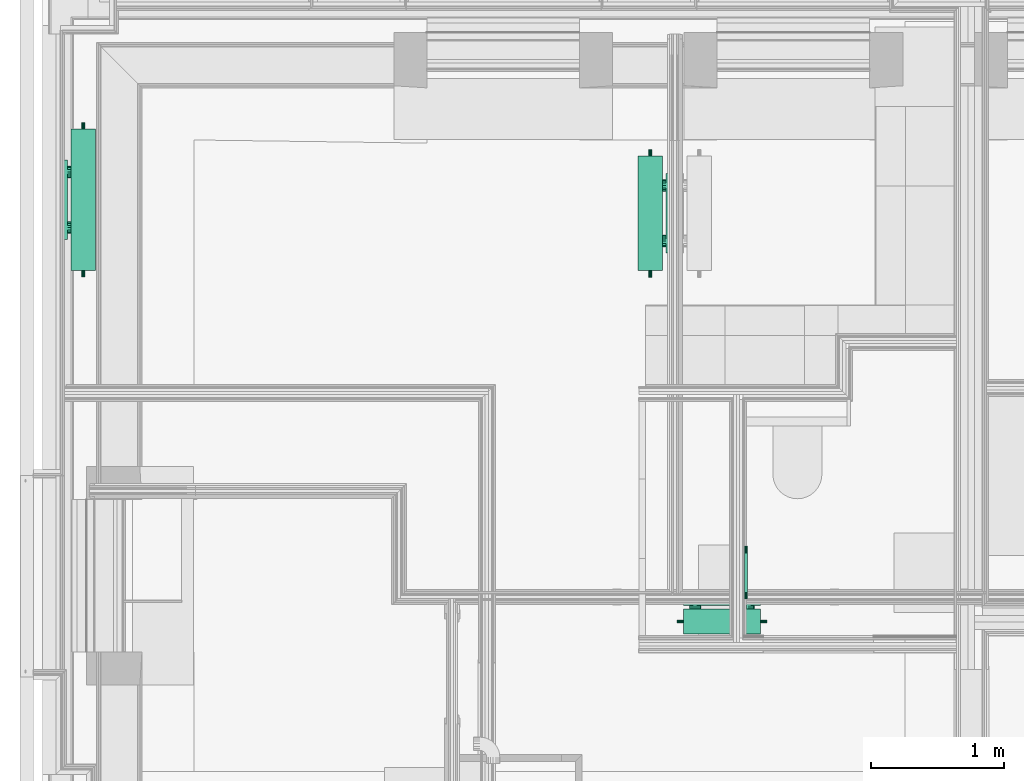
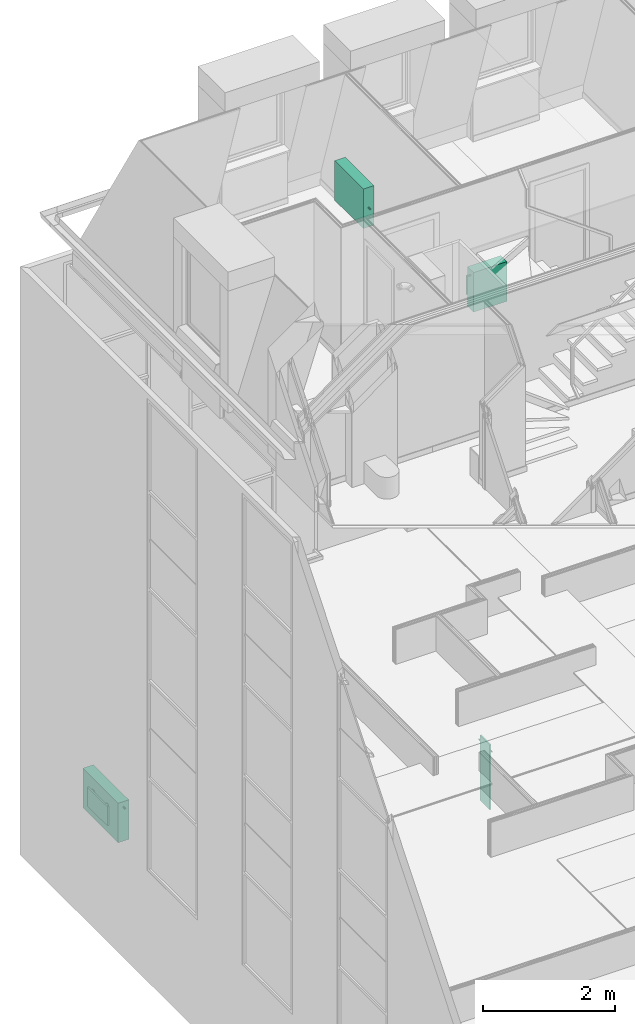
# One storey, part 147 of 169: 4 flow terminals.
"""IFC2X3 building model written with IfcOpenShell, lengths in metres."""

from ifc_helpers import new_model, entity, si_unit, converted_unit, derived_unit, money_unit, direction, frame, origin_with_axes, place, context, subcontext, project, spatial, open_shell, surface_model, material, type_object, element, save


model = new_model("IFC2X3")

# Units and contexts
model_context = context("Model", 3, precision=1e-05, world=origin_with_axes(), true_north=direction((0.0, 1.0)))
body_context = subcontext(model_context, "Body", "Model", "MODEL_VIEW", scale=1.0)
ifc_project = project(units=[si_unit("LENGTHUNIT", "METRE"), si_unit("AREAUNIT", "SQUARE_METRE"), si_unit("VOLUMEUNIT", "CUBIC_METRE"), si_unit("ABSORBEDDOSEUNIT", "GRAY"), si_unit("AMOUNTOFSUBSTANCEUNIT", "MOLE"), si_unit("DOSEEQUIVALENTUNIT", "SIEVERT"), si_unit("ELECTRICCAPACITANCEUNIT", "FARAD"), si_unit("ELECTRICCHARGEUNIT", "COULOMB"), si_unit("ELECTRICCONDUCTANCEUNIT", "SIEMENS"), si_unit("ELECTRICCURRENTUNIT", "AMPERE"), si_unit("ELECTRICRESISTANCEUNIT", "OHM"), si_unit("ELECTRICVOLTAGEUNIT", "VOLT"), si_unit("ENERGYUNIT", "JOULE"), si_unit("FORCEUNIT", "NEWTON"), si_unit("FREQUENCYUNIT", "HERTZ"), si_unit("ILLUMINANCEUNIT", "LUX"), si_unit("INDUCTANCEUNIT", "HENRY"), si_unit("LUMINOUSFLUXUNIT", "LUMEN"), si_unit("LUMINOUSINTENSITYUNIT", "CANDELA"), si_unit("MAGNETICFLUXDENSITYUNIT", "TESLA"), si_unit("MAGNETICFLUXUNIT", "WEBER"), si_unit("MASSUNIT", "GRAM"), converted_unit("PLANEANGLEUNIT", "degree", entity("IfcReal", 0.0174532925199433), si_unit("PLANEANGLEUNIT", "RADIAN"), dimensions=[0, 0, 0, 0, 0, 0, 0]), si_unit("POWERUNIT", "WATT"), si_unit("PRESSUREUNIT", "PASCAL"), si_unit("RADIOACTIVITYUNIT", "BECQUEREL"), si_unit("SOLIDANGLEUNIT", "STERADIAN"), si_unit("THERMODYNAMICTEMPERATUREUNIT", "KELVIN"), si_unit("TIMEUNIT", "SECOND"), derived_unit("ACCELERATIONUNIT", [(si_unit("LENGTHUNIT", "METRE"), 1), (si_unit("TIMEUNIT", "SECOND"), -2)]), derived_unit("ANGULARVELOCITYUNIT", [(converted_unit("PLANEANGLEUNIT", "degree", entity("IfcReal", 0.0174532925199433), si_unit("PLANEANGLEUNIT", "RADIAN"), dimensions=[0, 0, 0, 0, 0, 0, 0]), 1), (si_unit("TIMEUNIT", "SECOND"), -1)]), derived_unit("CURVATUREUNIT", [(converted_unit("PLANEANGLEUNIT", "degree", entity("IfcReal", 0.0174532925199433), si_unit("PLANEANGLEUNIT", "RADIAN"), dimensions=[0, 0, 0, 0, 0, 0, 0]), 1), (si_unit("LENGTHUNIT", "METRE"), -1)]), derived_unit("DYNAMICVISCOSITYUNIT", [(si_unit("PRESSUREUNIT", "PASCAL"), 1), (si_unit("TIMEUNIT", "SECOND"), 1)]), derived_unit("HEATFLUXDENSITYUNIT", [(si_unit("POWERUNIT", "WATT"), 1), (si_unit("LENGTHUNIT", "METRE"), -2)]), derived_unit("HEATINGVALUEUNIT", [(si_unit("ENERGYUNIT", "JOULE"), 1), (si_unit("MASSUNIT", "GRAM"), -1)]), derived_unit("INTEGERCOUNTRATEUNIT", [(si_unit("TIMEUNIT", "SECOND"), -1)]), derived_unit("IONCONCENTRATIONUNIT", [(si_unit("MASSUNIT", "GRAM"), 1), (si_unit("VOLUMEUNIT", "CUBIC_METRE"), -1)]), derived_unit("ISOTHERMALMOISTURECAPACITYUNIT", [(si_unit("VOLUMEUNIT", "CUBIC_METRE"), 1), (si_unit("MASSUNIT", "GRAM"), -1)]), derived_unit("KINEMATICVISCOSITYUNIT", [(si_unit("AREAUNIT", "SQUARE_METRE"), 1), (si_unit("TIMEUNIT", "SECOND"), -1)]), derived_unit("LINEARFORCEUNIT", [(si_unit("FORCEUNIT", "NEWTON"), 1), (si_unit("LENGTHUNIT", "METRE"), -1)]), derived_unit("LINEARMOMENTUNIT", [(si_unit("FORCEUNIT", "NEWTON"), 1), (si_unit("LENGTHUNIT", "METRE"), -1)]), derived_unit("LINEARSTIFFNESSUNIT", [(si_unit("FORCEUNIT", "NEWTON"), 1), (si_unit("LENGTHUNIT", "METRE"), -1)]), derived_unit("LINEARVELOCITYUNIT", [(si_unit("LENGTHUNIT", "METRE"), 1), (si_unit("TIMEUNIT", "SECOND"), -1)]), derived_unit("LUMINOUSINTENSITYDISTRIBUTIONUNIT", [(si_unit("LUMINOUSINTENSITYUNIT", "CANDELA"), 1), (si_unit("LUMINOUSFLUXUNIT", "LUMEN"), -1)]), derived_unit("MASSDENSITYUNIT", [(si_unit("MASSUNIT", "GRAM"), 1), (si_unit("VOLUMEUNIT", "CUBIC_METRE"), -1)]), derived_unit("MASSFLOWRATEUNIT", [(si_unit("MASSUNIT", "GRAM"), 1), (si_unit("TIMEUNIT", "SECOND"), -1)]), derived_unit("MASSPERLENGTHUNIT", [(si_unit("MASSUNIT", "GRAM"), 1), (si_unit("LENGTHUNIT", "METRE"), -1)]), derived_unit("MODULUSOFELASTICITYUNIT", [(si_unit("FORCEUNIT", "NEWTON"), 1), (si_unit("AREAUNIT", "SQUARE_METRE"), -1)]), derived_unit("MODULUSOFLINEARSUBGRADEREACTIONUNIT", [(si_unit("FORCEUNIT", "NEWTON"), 1), (si_unit("LENGTHUNIT", "METRE"), -2)]), derived_unit("MODULUSOFROTATIONALSUBGRADEREACTIONUNIT", [(si_unit("FORCEUNIT", "NEWTON"), 1), (si_unit("LENGTHUNIT", "METRE"), 1)]), derived_unit("MODULUSOFSUBGRADEREACTIONUNIT", [(si_unit("FORCEUNIT", "NEWTON"), 1), (si_unit("VOLUMEUNIT", "CUBIC_METRE"), -1)]), derived_unit("MOISTUREDIFFUSIVITYUNIT", [(si_unit("VOLUMEUNIT", "CUBIC_METRE"), 1), (si_unit("TIMEUNIT", "SECOND"), -1)]), derived_unit("MOLECULARWEIGHTUNIT", [(si_unit("MASSUNIT", "GRAM"), 1), (si_unit("AMOUNTOFSUBSTANCEUNIT", "MOLE"), -1)]), derived_unit("PLANARFORCEUNIT", [(si_unit("FORCEUNIT", "NEWTON"), 1), (si_unit("LENGTHUNIT", "METRE"), -2)]), derived_unit("ROTATIONALFREQUENCYUNIT", [(si_unit("TIMEUNIT", "SECOND"), -1)]), derived_unit("ROTATIONALMASSUNIT", [(si_unit("MASSUNIT", "GRAM"), 1), (si_unit("LENGTHUNIT", "METRE"), 2)]), derived_unit("ROTATIONALSTIFFNESSUNIT", [(si_unit("FORCEUNIT", "NEWTON"), 1), (si_unit("LENGTHUNIT", "METRE"), 1), (converted_unit("PLANEANGLEUNIT", "degree", entity("IfcReal", 0.0174532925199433), si_unit("PLANEANGLEUNIT", "RADIAN"), dimensions=[0, 0, 0, 0, 0, 0, 0]), -1)]), derived_unit("SECTIONAREAINTEGRALUNIT", [(si_unit("LENGTHUNIT", "METRE"), 5)]), derived_unit("SECTIONMODULUSUNIT", [(si_unit("LENGTHUNIT", "METRE"), 3)]), derived_unit("SHEARMODULUSUNIT", [(si_unit("FORCEUNIT", "NEWTON"), 1), (si_unit("AREAUNIT", "SQUARE_METRE"), -1)]), derived_unit("SOUNDPOWERUNIT", [(si_unit("ENERGYUNIT", "JOULE"), 1), (si_unit("TIMEUNIT", "SECOND"), -1)]), derived_unit("SPECIFICHEATCAPACITYUNIT", [(si_unit("FORCEUNIT", "NEWTON"), 1), (si_unit("MASSUNIT", "GRAM"), -1), (si_unit("THERMODYNAMICTEMPERATUREUNIT", "KELVIN"), -1)]), derived_unit("TEMPERATUREGRADIENTUNIT", [(si_unit("THERMODYNAMICTEMPERATUREUNIT", "KELVIN"), 1), (si_unit("LENGTHUNIT", "METRE"), -1)]), derived_unit("THERMALADMITTANCEUNIT", [(si_unit("POWERUNIT", "WATT"), 1), (si_unit("AREAUNIT", "SQUARE_METRE"), -1), (si_unit("THERMODYNAMICTEMPERATUREUNIT", "KELVIN"), -1)]), derived_unit("THERMALCONDUCTANCEUNIT", [(si_unit("POWERUNIT", "WATT"), 1), (si_unit("LENGTHUNIT", "METRE"), -1), (si_unit("THERMODYNAMICTEMPERATUREUNIT", "KELVIN"), -1)]), derived_unit("THERMALEXPANSIONCOEFFICIENTUNIT", [(si_unit("THERMODYNAMICTEMPERATUREUNIT", "KELVIN"), -1)]), derived_unit("THERMALRESISTANCEUNIT", [(si_unit("AREAUNIT", "SQUARE_METRE"), 1), (si_unit("POWERUNIT", "WATT"), -1)]), derived_unit("THERMALTRANSMITTANCEUNIT", [(si_unit("POWERUNIT", "WATT"), 1), (si_unit("AREAUNIT", "SQUARE_METRE"), -1), (si_unit("THERMODYNAMICTEMPERATUREUNIT", "KELVIN"), -1)]), derived_unit("TORQUEUNIT", [(si_unit("FORCEUNIT", "NEWTON"), 1), (si_unit("LENGTHUNIT", "METRE"), 1)]), derived_unit("VAPORPERMEABILITYUNIT", [(si_unit("MASSUNIT", "GRAM"), 1), (si_unit("TIMEUNIT", "SECOND"), -1)]), derived_unit("VOLUMETRICFLOWRATEUNIT", [(si_unit("VOLUMEUNIT", "CUBIC_METRE"), 1), (si_unit("TIMEUNIT", "SECOND"), -1)]), derived_unit("WARPINGCONSTANTUNIT", [(si_unit("LENGTHUNIT", "METRE"), 6)]), derived_unit("WARPINGMOMENTUNIT", [(si_unit("FORCEUNIT", "NEWTON"), 1), (si_unit("LENGTHUNIT", "METRE"), 2)]), money_unit("GBP")], contexts=[model_context])

# Site, building, storey, space
site_placement = place(None, origin_with_axes())
site = spatial("IfcSite", under=ifc_project, at=site_placement, Name="Site", CompositionType="ELEMENT")
building_placement = place(site_placement, origin_with_axes())
building = spatial("IfcBuilding", under=site, at=building_placement, Name="Building01", CompositionType="ELEMENT")
storey_placement = place(building_placement, frame((0.0, 0.0, 5.15), z_axis=(0.0, 0.0, 1.0), x_axis=(1.0, 0.0, 0.0)))
storey = spatial("IfcBuildingStorey", under=building, at=storey_placement, Name="1F", CompositionType="ELEMENT", Elevation=5.15)
space_1_placement = place(storey_placement, frame((0.318, 11.72567, 0.017975), z_axis=(0.0, 0.0, 1.0), x_axis=(1.0, 0.0, 0.0)))
space_1 = spatial("IfcSpace", under=storey, at=space_1_placement, Name="k/d/l", CompositionType="ELEMENT", InteriorOrExteriorSpace="NOTDEFINED")

# Flow terminal
ifc_material = material(Name="M_BSUK_Ventilation")
space_heater_type_1 = type_object("IfcSpaceHeaterType", Name="M-BmvRadiatorpanel-Panel", PredefinedType="NOTDEFINED")
flow_terminal_1_placement = place(storey_placement, frame((0.47825, 13.670846, 0.665), z_axis=(0.0, 0.0, 1.0), x_axis=(0.0, 1.0, 0.0)))
element("IfcFlowTerminal", 1, at=flow_terminal_1_placement, inside=space_1, type_object=space_heater_type_1, material=ifc_material, Name="M-BmvRadiatorpanel-Panel", ObjectType="M-BmvRadiatorpanel-Panel", context=body_context, shape_type="SurfaceModel", body=[
    surface_model("IfcShellBasedSurfaceModel", [(-1.069, -0.0925, 0.365), (-1.069, 0.0925, 0.365), (0.0, 0.0925, 0.365), (0.0, -0.0925, 0.365), (-1.069, -0.0925, -0.365), (-1.069, 0.0925, -0.365), (0.0, -0.0925, -0.365), (0.0, 0.0925, -0.365), (-0.2345, 0.12025, 0.175), (-0.8345, 0.12025, 0.175), (-0.8345, 0.14525, 0.175), (-0.2345, 0.14525, 0.175), (-0.8345, 0.14525, -0.175), (-0.2345, 0.14525, -0.175), (-0.8345, 0.12025, -0.175), (-0.2345, 0.12025, -0.175), (-0.3245, 0.0925, 0.0775), (-0.3245, 0.12025, 0.0775), (-0.307279, 0.12025, 0.080925), (-0.307279, 0.0925, 0.080925), (-0.29268, 0.12025, 0.09068), (-0.29268, 0.0925, 0.09068), (-0.282925, 0.12025, 0.105279), (-0.282925, 0.0925, 0.105279), (-0.2795, 0.12025, 0.1225), (-0.2795, 0.0925, 0.1225), (-0.282925, 0.12025, 0.139721), (-0.282925, 0.0925, 0.139721), (-0.29268, 0.12025, 0.15432), (-0.29268, 0.0925, 0.15432), (-0.307279, 0.12025, 0.164075), (-0.307279, 0.0925, 0.164075), (-0.3245, 0.12025, 0.1675), (-0.3245, 0.0925, 0.1675), (-0.341721, 0.12025, 0.164075), (-0.341721, 0.0925, 0.164075), (-0.35632, 0.12025, 0.15432), (-0.35632, 0.0925, 0.15432), (-0.366075, 0.12025, 0.139721), (-0.366075, 0.0925, 0.139721), (-0.3695, 0.12025, 0.1225), (-0.3695, 0.0925, 0.1225), (-0.366075, 0.12025, 0.105279), (-0.366075, 0.0925, 0.105279), (-0.35632, 0.12025, 0.09068), (-0.35632, 0.0925, 0.09068), (-0.341721, 0.12025, 0.080925), (-0.341721, 0.0925, 0.080925), (-0.7445, 0.0925, 0.0775), (-0.7445, 0.12025, 0.0775), (-0.727279, 0.12025, 0.080925), (-0.727279, 0.0925, 0.080925), (-0.71268, 0.12025, 0.09068), (-0.71268, 0.0925, 0.09068), (-0.702925, 0.12025, 0.105279), (-0.702925, 0.0925, 0.105279), (-0.6995, 0.12025, 0.1225), (-0.6995, 0.0925, 0.1225), (-0.702925, 0.12025, 0.139721), (-0.702925, 0.0925, 0.139721), (-0.71268, 0.12025, 0.15432), (-0.71268, 0.0925, 0.15432), (-0.727279, 0.12025, 0.164075), (-0.727279, 0.0925, 0.164075), (-0.7445, 0.12025, 0.1675), (-0.7445, 0.0925, 0.1675), (-0.761721, 0.12025, 0.164075), (-0.761721, 0.0925, 0.164075), (-0.77632, 0.12025, 0.15432), (-0.77632, 0.0925, 0.15432), (-0.786075, 0.12025, 0.139721), (-0.786075, 0.0925, 0.139721), (-0.7895, 0.12025, 0.1225), (-0.7895, 0.0925, 0.1225), (-0.786075, 0.12025, 0.105279), (-0.786075, 0.0925, 0.105279), (-0.77632, 0.12025, 0.09068), (-0.77632, 0.0925, 0.09068), (-0.761721, 0.12025, 0.080925), (-0.761721, 0.0925, 0.080925), (0.05, 0.0, -0.0225), (0.0, 0.0, -0.0225), (0.0, 0.004784, -0.021548), (0.05, 0.004784, -0.021548), (0.0, 0.008839, -0.018839), (0.05, 0.008839, -0.018839), (0.0, 0.011548, -0.014784), (0.05, 0.011548, -0.014784), (0.0, 0.0125, -0.01), (0.05, 0.0125, -0.01), (0.0, 0.011548, -0.005216), (0.05, 0.011548, -0.005216), (0.0, 0.008839, -0.001161), (0.05, 0.008839, -0.001161), (0.0, 0.004784, 0.001548), (0.05, 0.004784, 0.001548), (0.0, 0.0, 0.0025), (0.05, 0.0, 0.0025), (0.0, -0.004784, 0.001548), (0.05, -0.004784, 0.001548), (0.0, -0.008839, -0.001161), (0.05, -0.008839, -0.001161), (0.0, -0.011548, -0.005216), (0.05, -0.011548, -0.005216), (0.0, -0.0125, -0.01), (0.05, -0.0125, -0.01), (0.0, -0.011548, -0.014784), (0.05, -0.011548, -0.014784), (0.0, -0.008839, -0.018839), (0.05, -0.008839, -0.018839), (0.0, -0.004784, -0.021548), (0.05, -0.004784, -0.021548), (-1.119, 0.0, 0.2525), (-1.069, 0.0, 0.2525), (-1.069, -0.004784, 0.253452), (-1.119, -0.004784, 0.253452), (-1.069, -0.008839, 0.256161), (-1.119, -0.008839, 0.256161), (-1.069, -0.011548, 0.260216), (-1.119, -0.011548, 0.260216), (-1.069, -0.0125, 0.265), (-1.119, -0.0125, 0.265), (-1.069, -0.011548, 0.269784), (-1.119, -0.011548, 0.269784), (-1.069, -0.008839, 0.273839), (-1.119, -0.008839, 0.273839), (-1.069, -0.004784, 0.276548), (-1.119, -0.004784, 0.276548), (-1.069, 0.0, 0.2775), (-1.119, 0.0, 0.2775), (-1.069, 0.004784, 0.276548), (-1.119, 0.004784, 0.276548), (-1.069, 0.008839, 0.273839), (-1.119, 0.008839, 0.273839), (-1.069, 0.011548, 0.269784), (-1.119, 0.011548, 0.269784), (-1.069, 0.0125, 0.265), (-1.119, 0.0125, 0.265), (-1.069, 0.011548, 0.260216), (-1.119, 0.011548, 0.260216), (-1.069, 0.008839, 0.256161), (-1.119, 0.008839, 0.256161), (-1.069, 0.004784, 0.253452), (-1.119, 0.004784, 0.253452)], [open_shell([[[0, 1, 2, 3]], [[4, 5, 1, 0]], [[6, 7, 5, 4]], [[3, 2, 7, 6]], [[1, 5, 7, 2]], [[3, 6, 4, 0]], [[8, 9, 10, 11]], [[11, 10, 12, 13]], [[13, 12, 14, 15]], [[15, 14, 9, 8]], [[9, 14, 12, 10]], [[11, 13, 15, 8]], [[16, 17, 18, 19]], [[19, 18, 20, 21]], [[21, 20, 22, 23]], [[23, 22, 24, 25]], [[25, 24, 26, 27]], [[27, 26, 28, 29]], [[29, 28, 30, 31]], [[31, 30, 32, 33]], [[33, 32, 34, 35]], [[35, 34, 36, 37]], [[37, 36, 38, 39]], [[39, 38, 40, 41]], [[41, 40, 42, 43]], [[43, 42, 44, 45]], [[45, 44, 46, 47]], [[47, 46, 17, 16]], [[48, 49, 50, 51]], [[51, 50, 52, 53]], [[53, 52, 54, 55]], [[55, 54, 56, 57]], [[57, 56, 58, 59]], [[59, 58, 60, 61]], [[61, 60, 62, 63]], [[63, 62, 64, 65]], [[65, 64, 66, 67]], [[67, 66, 68, 69]], [[69, 68, 70, 71]], [[71, 70, 72, 73]], [[73, 72, 74, 75]], [[75, 74, 76, 77]], [[77, 76, 78, 79]], [[79, 78, 49, 48]], [[80, 81, 82, 83]], [[83, 82, 84, 85]], [[85, 84, 86, 87]], [[87, 86, 88, 89]], [[89, 88, 90, 91]], [[91, 90, 92, 93]], [[93, 92, 94, 95]], [[95, 94, 96, 97]], [[97, 96, 98, 99]], [[99, 98, 100, 101]], [[101, 100, 102, 103]], [[103, 102, 104, 105]], [[105, 104, 106, 107]], [[107, 106, 108, 109]], [[109, 108, 110, 111]], [[111, 110, 81, 80]], [[112, 113, 114, 115]], [[115, 114, 116, 117]], [[117, 116, 118, 119]], [[119, 118, 120, 121]], [[121, 120, 122, 123]], [[123, 122, 124, 125]], [[125, 124, 126, 127]], [[127, 126, 128, 129]], [[129, 128, 130, 131]], [[131, 130, 132, 133]], [[133, 132, 134, 135]], [[135, 134, 136, 137]], [[137, 136, 138, 139]], [[139, 138, 140, 141]], [[141, 140, 142, 143]], [[143, 142, 113, 112]]])]),
])

# Space
space_2_placement = place(storey_placement, frame((1.009939, 13.890379, 9.86), z_axis=(0.0, 0.0, 1.0), x_axis=(0.0, -1.0, 0.0)))
space_2 = spatial("IfcSpace", under=storey, at=space_2_placement, Name="26", CompositionType="ELEMENT", InteriorOrExteriorSpace="NOTDEFINED")

# Flow terminals
flow_terminal_2_placement = place(storey_placement, frame((4.754774, 12.601764, 10.495), z_axis=(0.0, 0.0, 1.0), x_axis=(0.0, -1.0, 0.0)))
element("IfcFlowTerminal", 2, at=flow_terminal_2_placement, inside=space_2, type_object=space_heater_type_1, material=ifc_material, Name="M-BmvRadiatorpanel-Panel", ObjectType="M-BmvRadiatorpanel-Panel", context=body_context, shape_type="SurfaceModel", body=[
    surface_model("IfcShellBasedSurfaceModel", [(-0.865, -0.0925, 0.365), (-0.865, 0.0925, 0.365), (0.0, 0.0925, 0.365), (0.0, -0.0925, 0.365), (-0.865, -0.0925, -0.365), (-0.865, 0.0925, -0.365), (0.0, -0.0925, -0.365), (0.0, 0.0925, -0.365), (-0.1325, 0.12025, 0.175), (-0.7325, 0.12025, 0.175), (-0.7325, 0.14525, 0.175), (-0.1325, 0.14525, 0.175), (-0.7325, 0.14525, -0.175), (-0.1325, 0.14525, -0.175), (-0.7325, 0.12025, -0.175), (-0.1325, 0.12025, -0.175), (-0.2225, 0.0925, 0.0775), (-0.2225, 0.12025, 0.0775), (-0.205279, 0.12025, 0.080925), (-0.205279, 0.0925, 0.080925), (-0.19068, 0.12025, 0.09068), (-0.19068, 0.0925, 0.09068), (-0.180925, 0.12025, 0.105279), (-0.180925, 0.0925, 0.105279), (-0.1775, 0.12025, 0.1225), (-0.1775, 0.0925, 0.1225), (-0.180925, 0.12025, 0.139721), (-0.180925, 0.0925, 0.139721), (-0.19068, 0.12025, 0.15432), (-0.19068, 0.0925, 0.15432), (-0.205279, 0.12025, 0.164075), (-0.205279, 0.0925, 0.164075), (-0.2225, 0.12025, 0.1675), (-0.2225, 0.0925, 0.1675), (-0.239721, 0.12025, 0.164075), (-0.239721, 0.0925, 0.164075), (-0.25432, 0.12025, 0.15432), (-0.25432, 0.0925, 0.15432), (-0.264075, 0.12025, 0.139721), (-0.264075, 0.0925, 0.139721), (-0.2675, 0.12025, 0.1225), (-0.2675, 0.0925, 0.1225), (-0.264075, 0.12025, 0.105279), (-0.264075, 0.0925, 0.105279), (-0.25432, 0.12025, 0.09068), (-0.25432, 0.0925, 0.09068), (-0.239721, 0.12025, 0.080925), (-0.239721, 0.0925, 0.080925), (-0.6425, 0.0925, 0.0775), (-0.6425, 0.12025, 0.0775), (-0.625279, 0.12025, 0.080925), (-0.625279, 0.0925, 0.080925), (-0.61068, 0.12025, 0.09068), (-0.61068, 0.0925, 0.09068), (-0.600925, 0.12025, 0.105279), (-0.600925, 0.0925, 0.105279), (-0.5975, 0.12025, 0.1225), (-0.5975, 0.0925, 0.1225), (-0.600925, 0.12025, 0.139721), (-0.600925, 0.0925, 0.139721), (-0.61068, 0.12025, 0.15432), (-0.61068, 0.0925, 0.15432), (-0.625279, 0.12025, 0.164075), (-0.625279, 0.0925, 0.164075), (-0.6425, 0.12025, 0.1675), (-0.6425, 0.0925, 0.1675), (-0.659721, 0.12025, 0.164075), (-0.659721, 0.0925, 0.164075), (-0.67432, 0.12025, 0.15432), (-0.67432, 0.0925, 0.15432), (-0.684075, 0.12025, 0.139721), (-0.684075, 0.0925, 0.139721), (-0.6875, 0.12025, 0.1225), (-0.6875, 0.0925, 0.1225), (-0.684075, 0.12025, 0.105279), (-0.684075, 0.0925, 0.105279), (-0.67432, 0.12025, 0.09068), (-0.67432, 0.0925, 0.09068), (-0.659721, 0.12025, 0.080925), (-0.659721, 0.0925, 0.080925), (0.05, 0.0, -0.0225), (0.0, 0.0, -0.0225), (0.0, 0.004784, -0.021548), (0.05, 0.004784, -0.021548), (0.0, 0.008839, -0.018839), (0.05, 0.008839, -0.018839), (0.0, 0.011548, -0.014784), (0.05, 0.011548, -0.014784), (0.0, 0.0125, -0.01), (0.05, 0.0125, -0.01), (0.0, 0.011548, -0.005216), (0.05, 0.011548, -0.005216), (0.0, 0.008839, -0.001161), (0.05, 0.008839, -0.001161), (0.0, 0.004784, 0.001548), (0.05, 0.004784, 0.001548), (0.0, 0.0, 0.0025), (0.05, 0.0, 0.0025), (0.0, -0.004784, 0.001548), (0.05, -0.004784, 0.001548), (0.0, -0.008839, -0.001161), (0.05, -0.008839, -0.001161), (0.0, -0.011548, -0.005216), (0.05, -0.011548, -0.005216), (0.0, -0.0125, -0.01), (0.05, -0.0125, -0.01), (0.0, -0.011548, -0.014784), (0.05, -0.011548, -0.014784), (0.0, -0.008839, -0.018839), (0.05, -0.008839, -0.018839), (0.0, -0.004784, -0.021548), (0.05, -0.004784, -0.021548), (-0.915, 0.0, 0.2525), (-0.865, 0.0, 0.2525), (-0.865, -0.004784, 0.253452), (-0.915, -0.004784, 0.253452), (-0.865, -0.008839, 0.256161), (-0.915, -0.008839, 0.256161), (-0.865, -0.011548, 0.260216), (-0.915, -0.011548, 0.260216), (-0.865, -0.0125, 0.265), (-0.915, -0.0125, 0.265), (-0.865, -0.011548, 0.269784), (-0.915, -0.011548, 0.269784), (-0.865, -0.008839, 0.273839), (-0.915, -0.008839, 0.273839), (-0.865, -0.004784, 0.276548), (-0.915, -0.004784, 0.276548), (-0.865, 0.0, 0.2775), (-0.915, 0.0, 0.2775), (-0.865, 0.004784, 0.276548), (-0.915, 0.004784, 0.276548), (-0.865, 0.008839, 0.273839), (-0.915, 0.008839, 0.273839), (-0.865, 0.011548, 0.269784), (-0.915, 0.011548, 0.269784), (-0.865, 0.0125, 0.265), (-0.915, 0.0125, 0.265), (-0.865, 0.011548, 0.260216), (-0.915, 0.011548, 0.260216), (-0.865, 0.008839, 0.256161), (-0.915, 0.008839, 0.256161), (-0.865, 0.004784, 0.253452), (-0.915, 0.004784, 0.253452)], [open_shell([[[0, 1, 2, 3]], [[4, 5, 1, 0]], [[6, 7, 5, 4]], [[3, 2, 7, 6]], [[1, 5, 7, 2]], [[3, 6, 4, 0]], [[8, 9, 10, 11]], [[11, 10, 12, 13]], [[13, 12, 14, 15]], [[15, 14, 9, 8]], [[9, 14, 12, 10]], [[11, 13, 15, 8]], [[16, 17, 18, 19]], [[19, 18, 20, 21]], [[21, 20, 22, 23]], [[23, 22, 24, 25]], [[25, 24, 26, 27]], [[27, 26, 28, 29]], [[29, 28, 30, 31]], [[31, 30, 32, 33]], [[33, 32, 34, 35]], [[35, 34, 36, 37]], [[37, 36, 38, 39]], [[39, 38, 40, 41]], [[41, 40, 42, 43]], [[43, 42, 44, 45]], [[45, 44, 46, 47]], [[47, 46, 17, 16]], [[48, 49, 50, 51]], [[51, 50, 52, 53]], [[53, 52, 54, 55]], [[55, 54, 56, 57]], [[57, 56, 58, 59]], [[59, 58, 60, 61]], [[61, 60, 62, 63]], [[63, 62, 64, 65]], [[65, 64, 66, 67]], [[67, 66, 68, 69]], [[69, 68, 70, 71]], [[71, 70, 72, 73]], [[73, 72, 74, 75]], [[75, 74, 76, 77]], [[77, 76, 78, 79]], [[79, 78, 49, 48]], [[80, 81, 82, 83]], [[83, 82, 84, 85]], [[85, 84, 86, 87]], [[87, 86, 88, 89]], [[89, 88, 90, 91]], [[91, 90, 92, 93]], [[93, 92, 94, 95]], [[95, 94, 96, 97]], [[97, 96, 98, 99]], [[99, 98, 100, 101]], [[101, 100, 102, 103]], [[103, 102, 104, 105]], [[105, 104, 106, 107]], [[107, 106, 108, 109]], [[109, 108, 110, 111]], [[111, 110, 81, 80]], [[112, 113, 114, 115]], [[115, 114, 116, 117]], [[117, 116, 118, 119]], [[119, 118, 120, 121]], [[121, 120, 122, 123]], [[123, 122, 124, 125]], [[125, 124, 126, 127]], [[127, 126, 128, 129]], [[129, 128, 130, 131]], [[131, 130, 132, 133]], [[133, 132, 134, 135]], [[135, 134, 136, 137]], [[137, 136, 138, 139]], [[139, 138, 140, 141]], [[141, 140, 142, 143]], [[143, 142, 113, 112]]])]),
])
flow_terminal_3_placement = place(storey_placement, frame((5.585459, 9.954689, 10.495), z_axis=(0.0, 0.0, 1.0), x_axis=(1.0, 0.0, 0.0)))
element("IfcFlowTerminal", 3, at=flow_terminal_3_placement, inside=space_2, type_object=space_heater_type_1, material=ifc_material, Name="M-BmvRadiatorpanel-Panel", ObjectType="M-BmvRadiatorpanel-Panel", context=body_context, shape_type="SurfaceModel", body=[
    surface_model("IfcShellBasedSurfaceModel", [(-0.58, -0.0925, 0.365), (-0.58, 0.0925, 0.365), (0.0, 0.0925, 0.365), (0.0, -0.0925, 0.365), (-0.58, -0.0925, -0.365), (-0.58, 0.0925, -0.365), (0.0, -0.0925, -0.365), (0.0, 0.0925, -0.365), (0.0, 0.12025, 0.175), (-0.58, 0.12025, 0.175), (-0.58, 0.14525, 0.175), (0.0, 0.14525, 0.175), (-0.58, 0.14525, -0.175), (0.0, 0.14525, -0.175), (-0.58, 0.12025, -0.175), (0.0, 0.12025, -0.175), (-0.087, 0.0925, 0.079), (-0.087, 0.12025, 0.079), (-0.070353, 0.12025, 0.082311), (-0.070353, 0.0925, 0.082311), (-0.056241, 0.12025, 0.091741), (-0.056241, 0.0925, 0.091741), (-0.046811, 0.12025, 0.105853), (-0.046811, 0.0925, 0.105853), (-0.0435, 0.12025, 0.1225), (-0.0435, 0.0925, 0.1225), (-0.046811, 0.12025, 0.139147), (-0.046811, 0.0925, 0.139147), (-0.056241, 0.12025, 0.153259), (-0.056241, 0.0925, 0.153259), (-0.070353, 0.12025, 0.162689), (-0.070353, 0.0925, 0.162689), (-0.087, 0.12025, 0.166), (-0.087, 0.0925, 0.166), (-0.103647, 0.12025, 0.162689), (-0.103647, 0.0925, 0.162689), (-0.117759, 0.12025, 0.153259), (-0.117759, 0.0925, 0.153259), (-0.127189, 0.12025, 0.139147), (-0.127189, 0.0925, 0.139147), (-0.1305, 0.12025, 0.1225), (-0.1305, 0.0925, 0.1225), (-0.127189, 0.12025, 0.105853), (-0.127189, 0.0925, 0.105853), (-0.117759, 0.12025, 0.091741), (-0.117759, 0.0925, 0.091741), (-0.103647, 0.12025, 0.082311), (-0.103647, 0.0925, 0.082311), (-0.493, 0.0925, 0.079), (-0.493, 0.12025, 0.079), (-0.476353, 0.12025, 0.082311), (-0.476353, 0.0925, 0.082311), (-0.462241, 0.12025, 0.091741), (-0.462241, 0.0925, 0.091741), (-0.452811, 0.12025, 0.105853), (-0.452811, 0.0925, 0.105853), (-0.4495, 0.12025, 0.1225), (-0.4495, 0.0925, 0.1225), (-0.452811, 0.12025, 0.139147), (-0.452811, 0.0925, 0.139147), (-0.462241, 0.12025, 0.153259), (-0.462241, 0.0925, 0.153259), (-0.476353, 0.12025, 0.162689), (-0.476353, 0.0925, 0.162689), (-0.493, 0.12025, 0.166), (-0.493, 0.0925, 0.166), (-0.509647, 0.12025, 0.162689), (-0.509647, 0.0925, 0.162689), (-0.523759, 0.12025, 0.153259), (-0.523759, 0.0925, 0.153259), (-0.533189, 0.12025, 0.139147), (-0.533189, 0.0925, 0.139147), (-0.5365, 0.12025, 0.1225), (-0.5365, 0.0925, 0.1225), (-0.533189, 0.12025, 0.105853), (-0.533189, 0.0925, 0.105853), (-0.523759, 0.12025, 0.091741), (-0.523759, 0.0925, 0.091741), (-0.509647, 0.12025, 0.082311), (-0.509647, 0.0925, 0.082311), (0.05, 0.0, -0.0225), (0.0, 0.0, -0.0225), (0.0, 0.004784, -0.021548), (0.05, 0.004784, -0.021548), (0.0, 0.008839, -0.018839), (0.05, 0.008839, -0.018839), (0.0, 0.011548, -0.014784), (0.05, 0.011548, -0.014784), (0.0, 0.0125, -0.01), (0.05, 0.0125, -0.01), (0.0, 0.011548, -0.005216), (0.05, 0.011548, -0.005216), (0.0, 0.008839, -0.001161), (0.05, 0.008839, -0.001161), (0.0, 0.004784, 0.001548), (0.05, 0.004784, 0.001548), (0.0, 0.0, 0.0025), (0.05, 0.0, 0.0025), (0.0, -0.004784, 0.001548), (0.05, -0.004784, 0.001548), (0.0, -0.008839, -0.001161), (0.05, -0.008839, -0.001161), (0.0, -0.011548, -0.005216), (0.05, -0.011548, -0.005216), (0.0, -0.0125, -0.01), (0.05, -0.0125, -0.01), (0.0, -0.011548, -0.014784), (0.05, -0.011548, -0.014784), (0.0, -0.008839, -0.018839), (0.05, -0.008839, -0.018839), (0.0, -0.004784, -0.021548), (0.05, -0.004784, -0.021548), (-0.63, 0.0, 0.2525), (-0.58, 0.0, 0.2525), (-0.58, -0.004784, 0.253452), (-0.63, -0.004784, 0.253452), (-0.58, -0.008839, 0.256161), (-0.63, -0.008839, 0.256161), (-0.58, -0.011548, 0.260216), (-0.63, -0.011548, 0.260216), (-0.58, -0.0125, 0.265), (-0.63, -0.0125, 0.265), (-0.58, -0.011548, 0.269784), (-0.63, -0.011548, 0.269784), (-0.58, -0.008839, 0.273839), (-0.63, -0.008839, 0.273839), (-0.58, -0.004784, 0.276548), (-0.63, -0.004784, 0.276548), (-0.58, 0.0, 0.2775), (-0.63, 0.0, 0.2775), (-0.58, 0.004784, 0.276548), (-0.63, 0.004784, 0.276548), (-0.58, 0.008839, 0.273839), (-0.63, 0.008839, 0.273839), (-0.58, 0.011548, 0.269784), (-0.63, 0.011548, 0.269784), (-0.58, 0.0125, 0.265), (-0.63, 0.0125, 0.265), (-0.58, 0.011548, 0.260216), (-0.63, 0.011548, 0.260216), (-0.58, 0.008839, 0.256161), (-0.63, 0.008839, 0.256161), (-0.58, 0.004784, 0.253452), (-0.63, 0.004784, 0.253452)], [open_shell([[[0, 1, 2, 3]], [[4, 5, 1, 0]], [[6, 7, 5, 4]], [[3, 2, 7, 6]], [[1, 5, 7, 2]], [[3, 6, 4, 0]], [[8, 9, 10, 11]], [[11, 10, 12, 13]], [[13, 12, 14, 15]], [[15, 14, 9, 8]], [[9, 14, 12, 10]], [[11, 13, 15, 8]], [[16, 17, 18, 19]], [[19, 18, 20, 21]], [[21, 20, 22, 23]], [[23, 22, 24, 25]], [[25, 24, 26, 27]], [[27, 26, 28, 29]], [[29, 28, 30, 31]], [[31, 30, 32, 33]], [[33, 32, 34, 35]], [[35, 34, 36, 37]], [[37, 36, 38, 39]], [[39, 38, 40, 41]], [[41, 40, 42, 43]], [[43, 42, 44, 45]], [[45, 44, 46, 47]], [[47, 46, 17, 16]], [[48, 49, 50, 51]], [[51, 50, 52, 53]], [[53, 52, 54, 55]], [[55, 54, 56, 57]], [[57, 56, 58, 59]], [[59, 58, 60, 61]], [[61, 60, 62, 63]], [[63, 62, 64, 65]], [[65, 64, 66, 67]], [[67, 66, 68, 69]], [[69, 68, 70, 71]], [[71, 70, 72, 73]], [[73, 72, 74, 75]], [[75, 74, 76, 77]], [[77, 76, 78, 79]], [[79, 78, 49, 48]], [[80, 81, 82, 83]], [[83, 82, 84, 85]], [[85, 84, 86, 87]], [[87, 86, 88, 89]], [[89, 88, 90, 91]], [[91, 90, 92, 93]], [[93, 92, 94, 95]], [[95, 94, 96, 97]], [[97, 96, 98, 99]], [[99, 98, 100, 101]], [[101, 100, 102, 103]], [[103, 102, 104, 105]], [[105, 104, 106, 107]], [[107, 106, 108, 109]], [[109, 108, 110, 111]], [[111, 110, 81, 80]], [[112, 113, 114, 115]], [[115, 114, 116, 117]], [[117, 116, 118, 119]], [[119, 118, 120, 121]], [[121, 120, 122, 123]], [[123, 122, 124, 125]], [[125, 124, 126, 127]], [[127, 126, 128, 129]], [[129, 128, 130, 131]], [[131, 130, 132, 133]], [[133, 132, 134, 135]], [[135, 134, 136, 137]], [[137, 136, 138, 139]], [[139, 138, 140, 141]], [[141, 140, 142, 143]], [[143, 142, 113, 112]]])]),
])

# Space
space_3_placement = place(storey_placement, frame((7.064669, 14.582, 0.017975), z_axis=(0.0, 0.0, 1.0), x_axis=(-1.0, 0.0, 0.0)))
space_3 = spatial("IfcSpace", under=storey, at=space_3_placement, Name="07", CompositionType="ELEMENT", InteriorOrExteriorSpace="NOTDEFINED")

# Flow terminal
space_heater_type_2 = type_object("IfcSpaceHeaterType", Name="M-BmvRadiator-Column", PredefinedType="NOTDEFINED")
flow_terminal_4_placement = place(storey_placement, frame((5.477169, 10.47326, 1.2), z_axis=(0.0, 0.0, 1.0), x_axis=(0.0, 1.0, 0.0)))
element("IfcFlowTerminal", 4, at=flow_terminal_4_placement, inside=space_3, type_object=space_heater_type_2, material=ifc_material, Name="M-BmvRadiator-Column", ObjectType="M-BmvRadiator-Column", context=body_context, shape_type="SurfaceModel", body=[
    surface_model("IfcShellBasedSurfaceModel", [(0.0, -0.0125, 0.6), (0.0, -0.0125, -0.6), (0.0, 0.0125, -0.6), (0.0, 0.0125, 0.6), (-0.3, -0.0125, 0.6), (-0.3, -0.0125, -0.6), (-0.3, 0.0125, -0.6), (-0.3, 0.0125, 0.6), (-0.06, 0.0125, 0.6), (-0.06, -0.0125, 0.6), (-0.06, -0.0125, -0.6), (-0.06, 0.0125, -0.6), (-0.12, 0.0125, 0.6), (-0.12, -0.0125, 0.6), (-0.12, -0.0125, -0.6), (-0.12, 0.0125, -0.6), (-0.18, 0.0125, 0.6), (-0.18, -0.0125, 0.6), (-0.18, -0.0125, -0.6), (-0.18, 0.0125, -0.6), (-0.24, 0.0125, 0.6), (-0.24, -0.0125, 0.6), (-0.24, -0.0125, -0.6), (-0.24, 0.0125, -0.6), (0.05, 0.0, 0.4825), (0.0, 0.0, 0.4825), (0.0, 0.003827, 0.483261), (0.05, 0.003827, 0.483261), (0.0, 0.007071, 0.485429), (0.05, 0.007071, 0.485429), (0.0, 0.009239, 0.488673), (0.05, 0.009239, 0.488673), (0.0, 0.01, 0.4925), (0.05, 0.01, 0.4925), (0.0, 0.009239, 0.496327), (0.05, 0.009239, 0.496327), (0.0, 0.007071, 0.499571), (0.05, 0.007071, 0.499571), (0.0, 0.003827, 0.501739), (0.05, 0.003827, 0.501739), (0.0, 0.0, 0.5025), (0.05, 0.0, 0.5025), (0.0, -0.003827, 0.501739), (0.05, -0.003827, 0.501739), (0.0, -0.007071, 0.499571), (0.05, -0.007071, 0.499571), (0.0, -0.009239, 0.496327), (0.05, -0.009239, 0.496327), (0.0, -0.01, 0.4925), (0.05, -0.01, 0.4925), (0.0, -0.009239, 0.488673), (0.05, -0.009239, 0.488673), (0.0, -0.007071, 0.485429), (0.05, -0.007071, 0.485429), (0.0, -0.003827, 0.483261), (0.05, -0.003827, 0.483261), (-0.35, 0.0, 0.4884), (-0.3, 0.0, 0.4884), (-0.3, -0.003827, 0.489161), (-0.35, -0.003827, 0.489161), (-0.3, -0.007071, 0.491329), (-0.35, -0.007071, 0.491329), (-0.3, -0.009239, 0.494573), (-0.35, -0.009239, 0.494573), (-0.3, -0.01, 0.4984), (-0.35, -0.01, 0.4984), (-0.3, -0.009239, 0.502227), (-0.35, -0.009239, 0.502227), (-0.3, -0.007071, 0.505471), (-0.35, -0.007071, 0.505471), (-0.3, -0.003827, 0.507639), (-0.35, -0.003827, 0.507639), (-0.3, 0.0, 0.5084), (-0.35, 0.0, 0.5084), (-0.3, 0.003827, 0.507639), (-0.35, 0.003827, 0.507639), (-0.3, 0.007071, 0.505471), (-0.35, 0.007071, 0.505471), (-0.3, 0.009239, 0.502227), (-0.35, 0.009239, 0.502227), (-0.3, 0.01, 0.4984), (-0.35, 0.01, 0.4984), (-0.3, 0.009239, 0.494573), (-0.35, 0.009239, 0.494573), (-0.3, 0.007071, 0.491329), (-0.35, 0.007071, 0.491329), (-0.3, 0.003827, 0.489161), (-0.35, 0.003827, 0.489161)], [open_shell([[[0, 1, 2, 3]], [[4, 5, 6, 7]], [[8, 3, 0, 9]], [[9, 0, 1, 10]], [[10, 1, 2, 11]], [[11, 2, 3, 8]], [[12, 8, 9, 13]], [[13, 9, 10, 14]], [[14, 10, 11, 15]], [[15, 11, 8, 12]], [[16, 12, 13, 17]], [[17, 13, 14, 18]], [[18, 14, 15, 19]], [[19, 15, 12, 16]], [[20, 16, 17, 21]], [[21, 17, 18, 22]], [[22, 18, 19, 23]], [[23, 19, 16, 20]], [[7, 20, 21, 4]], [[4, 21, 22, 5]], [[5, 22, 23, 6]], [[6, 23, 20, 7]], [[24, 25, 26, 27]], [[27, 26, 28, 29]], [[29, 28, 30, 31]], [[31, 30, 32, 33]], [[33, 32, 34, 35]], [[35, 34, 36, 37]], [[37, 36, 38, 39]], [[39, 38, 40, 41]], [[41, 40, 42, 43]], [[43, 42, 44, 45]], [[45, 44, 46, 47]], [[47, 46, 48, 49]], [[49, 48, 50, 51]], [[51, 50, 52, 53]], [[53, 52, 54, 55]], [[55, 54, 25, 24]], [[56, 57, 58, 59]], [[59, 58, 60, 61]], [[61, 60, 62, 63]], [[63, 62, 64, 65]], [[65, 64, 66, 67]], [[67, 66, 68, 69]], [[69, 68, 70, 71]], [[71, 70, 72, 73]], [[73, 72, 74, 75]], [[75, 74, 76, 77]], [[77, 76, 78, 79]], [[79, 78, 80, 81]], [[81, 80, 82, 83]], [[83, 82, 84, 85]], [[85, 84, 86, 87]], [[87, 86, 57, 56]]])]),
])

save(model, "model.ifc")
